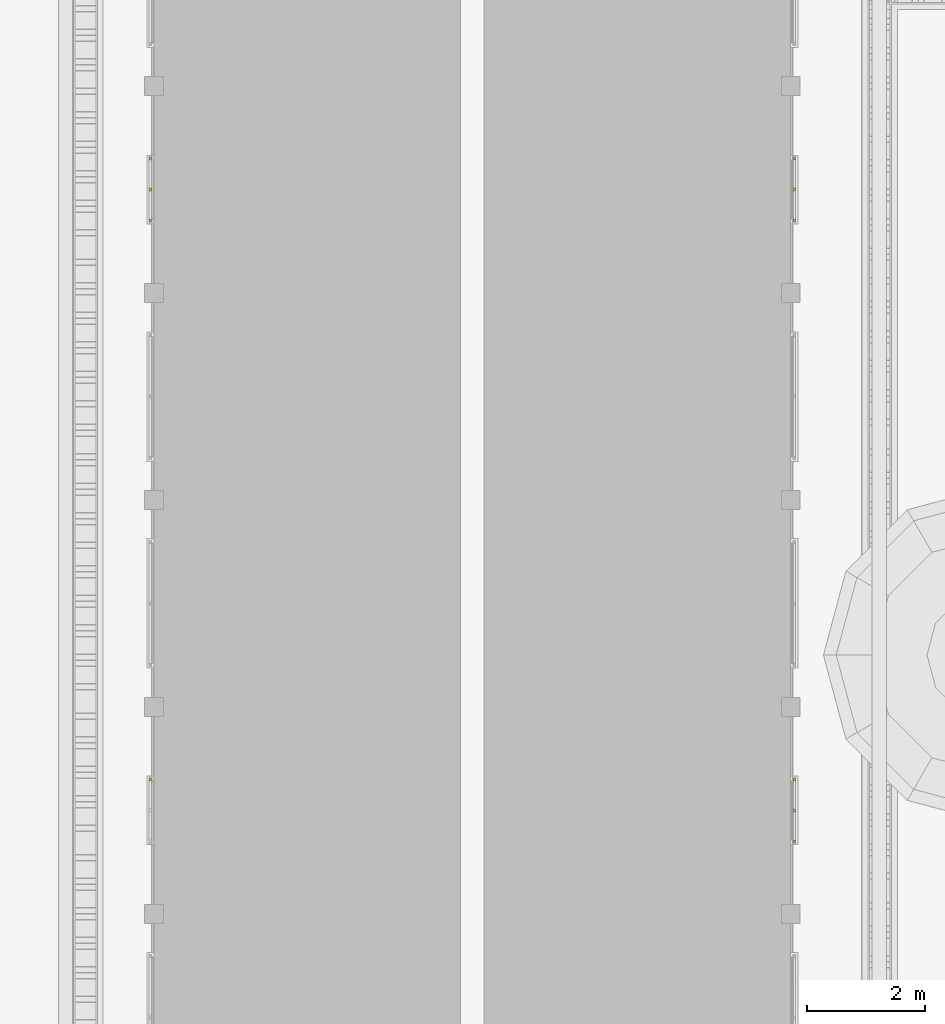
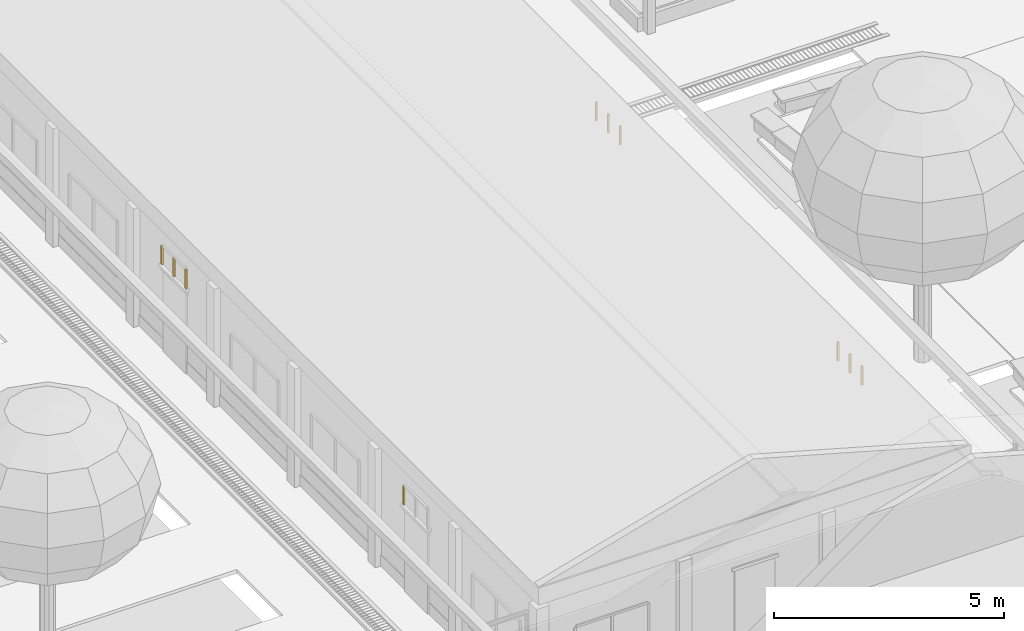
# One storey, part 72 of 166: 10 windows.
"""IFC2X3 building model written with IfcOpenShell, lengths in metres."""

from ifc_helpers import new_model, si_unit, origin, origin_with_axes, place, context, subcontext, project, spatial, faceted_brep, element, save


model = new_model("IFC2X3")

# Units and contexts
model_context = context("Model", 3, precision=1e-05, world=origin_with_axes())
body_context = subcontext(model_context, "Body", "Model", "MODEL_VIEW")
ifc_project = project(units=[si_unit("LENGTHUNIT", "METRE"), si_unit("AREAUNIT", "SQUARE_METRE"), si_unit("VOLUMEUNIT", "CUBIC_METRE"), si_unit("PLANEANGLEUNIT", "RADIAN")], contexts=[model_context])

# Site, building, storey
site_placement = place(None, origin_with_axes())
site = spatial("IfcSite", under=ifc_project, at=site_placement, Name="Predio Los Mangos - Morales, San Martín", CompositionType="ELEMENT")
building_placement = place(site_placement, origin())
building = spatial("IfcBuilding", under=site, at=building_placement, Name="Hogar de Refugio Temporal", CompositionType="ELEMENT")
storey_placement = place(building_placement, origin())
storey = spatial("IfcBuildingStorey", under=building, at=storey_placement, Name="NIVEL 1 (NPT +0.00)", CompositionType="ELEMENT", Elevation=0.0)

# Windows
window_1_placement = place(storey_placement, origin())
element("IfcWindow", 1, at=window_1_placement, inside=storey, Name="E-04_vt1_m", ObjectType="Ventana", context=body_context, shape_type="Brep", body=[
    faceted_brep([(13.72, 57.865, 2.45), (13.72, 57.915, 2.45), (13.76, 57.915, 2.45), (13.76, 57.865, 2.45), (13.72, 57.865, 2.95), (13.76, 57.865, 2.95), (13.76, 57.915, 2.95), (13.72, 57.915, 2.95)], [[[0, 1, 2, 3]], [[4, 5, 6, 7]], [[0, 3, 5, 4]], [[3, 2, 6, 5]], [[2, 1, 7, 6]], [[1, 0, 4, 7]]]),
])
window_2_placement = place(storey_placement, origin())
element("IfcWindow", 2, at=window_2_placement, inside=storey, Name="E-04_vt4_m", ObjectType="Ventana", context=body_context, shape_type="Brep", body=[
    faceted_brep([(13.72, 67.345, 2.45), (13.72, 67.395, 2.45), (13.76, 67.395, 2.45), (13.76, 67.345, 2.45), (13.72, 67.345, 2.95), (13.76, 67.345, 2.95), (13.76, 67.395, 2.95), (13.72, 67.395, 2.95)], [[[0, 1, 2, 3]], [[4, 5, 6, 7]], [[0, 3, 5, 4]], [[3, 2, 6, 5]], [[2, 1, 7, 6]], [[1, 0, 4, 7]]]),
])
window_3_placement = place(storey_placement, origin())
element("IfcWindow", 3, at=window_3_placement, inside=storey, Name="E-04_vt4_m", ObjectType="Ventana", context=body_context, shape_type="Brep", body=[
    faceted_brep([(13.72, 68.395, 2.45), (13.72, 68.445, 2.45), (13.76, 68.445, 2.45), (13.76, 68.395, 2.45), (13.72, 68.395, 2.95), (13.76, 68.395, 2.95), (13.76, 68.445, 2.95), (13.72, 68.445, 2.95)], [[[0, 1, 2, 3]], [[4, 5, 6, 7]], [[0, 3, 5, 4]], [[3, 2, 6, 5]], [[2, 1, 7, 6]], [[1, 0, 4, 7]]]),
])
window_4_placement = place(storey_placement, origin())
element("IfcWindow", 4, at=window_4_placement, inside=storey, Name="E-04_vt4_m", ObjectType="Ventana", context=body_context, shape_type="Brep", body=[
    faceted_brep([(13.72, 67.87, 2.45), (13.72, 67.92, 2.45), (13.76, 67.92, 2.45), (13.76, 67.87, 2.45), (13.72, 67.87, 2.95), (13.76, 67.87, 2.95), (13.76, 67.92, 2.95), (13.72, 67.92, 2.95)], [[[0, 1, 2, 3]], [[4, 5, 6, 7]], [[0, 3, 5, 4]], [[3, 2, 6, 5]], [[2, 1, 7, 6]], [[1, 0, 4, 7]]]),
])
window_5_placement = place(storey_placement, origin())
element("IfcWindow", 5, at=window_5_placement, inside=storey, Name="E-04_vt1_m", ObjectType="Ventana", context=body_context, shape_type="Brep", body=[
    faceted_brep([(24.64, 56.815, 2.45), (24.64, 56.865, 2.45), (24.68, 56.865, 2.45), (24.68, 56.815, 2.45), (24.64, 56.815, 2.95), (24.68, 56.815, 2.95), (24.68, 56.865, 2.95), (24.64, 56.865, 2.95)], [[[0, 1, 2, 3]], [[4, 5, 6, 7]], [[0, 3, 5, 4]], [[3, 2, 6, 5]], [[2, 1, 7, 6]], [[1, 0, 4, 7]]]),
])
window_6_placement = place(storey_placement, origin())
element("IfcWindow", 6, at=window_6_placement, inside=storey, Name="E-04_vt1_m", ObjectType="Ventana", context=body_context, shape_type="Brep", body=[
    faceted_brep([(24.64, 57.865, 2.45), (24.64, 57.915, 2.45), (24.68, 57.915, 2.45), (24.68, 57.865, 2.45), (24.64, 57.865, 2.95), (24.68, 57.865, 2.95), (24.68, 57.915, 2.95), (24.64, 57.915, 2.95)], [[[0, 1, 2, 3]], [[4, 5, 6, 7]], [[0, 3, 5, 4]], [[3, 2, 6, 5]], [[2, 1, 7, 6]], [[1, 0, 4, 7]]]),
])
window_7_placement = place(storey_placement, origin())
element("IfcWindow", 7, at=window_7_placement, inside=storey, Name="E-04_vt1_m", ObjectType="Ventana", context=body_context, shape_type="Brep", body=[
    faceted_brep([(24.64, 57.34, 2.45), (24.64, 57.39, 2.45), (24.68, 57.39, 2.45), (24.68, 57.34, 2.45), (24.64, 57.34, 2.95), (24.68, 57.34, 2.95), (24.68, 57.39, 2.95), (24.64, 57.39, 2.95)], [[[0, 1, 2, 3]], [[4, 5, 6, 7]], [[0, 3, 5, 4]], [[3, 2, 6, 5]], [[2, 1, 7, 6]], [[1, 0, 4, 7]]]),
])
window_8_placement = place(storey_placement, origin())
element("IfcWindow", 8, at=window_8_placement, inside=storey, Name="E-04_vt4_m", ObjectType="Ventana", context=body_context, shape_type="Brep", body=[
    faceted_brep([(24.64, 67.345, 2.45), (24.64, 67.395, 2.45), (24.68, 67.395, 2.45), (24.68, 67.345, 2.45), (24.64, 67.345, 2.95), (24.68, 67.345, 2.95), (24.68, 67.395, 2.95), (24.64, 67.395, 2.95)], [[[0, 1, 2, 3]], [[4, 5, 6, 7]], [[0, 3, 5, 4]], [[3, 2, 6, 5]], [[2, 1, 7, 6]], [[1, 0, 4, 7]]]),
])
window_9_placement = place(storey_placement, origin())
element("IfcWindow", 9, at=window_9_placement, inside=storey, Name="E-04_vt4_m", ObjectType="Ventana", context=body_context, shape_type="Brep", body=[
    faceted_brep([(24.64, 68.395, 2.45), (24.64, 68.445, 2.45), (24.68, 68.445, 2.45), (24.68, 68.395, 2.45), (24.64, 68.395, 2.95), (24.68, 68.395, 2.95), (24.68, 68.445, 2.95), (24.64, 68.445, 2.95)], [[[0, 1, 2, 3]], [[4, 5, 6, 7]], [[0, 3, 5, 4]], [[3, 2, 6, 5]], [[2, 1, 7, 6]], [[1, 0, 4, 7]]]),
])
window_10_placement = place(storey_placement, origin())
element("IfcWindow", 10, at=window_10_placement, inside=storey, Name="E-04_vt4_m", ObjectType="Ventana", context=body_context, shape_type="Brep", body=[
    faceted_brep([(24.64, 67.87, 2.45), (24.64, 67.92, 2.45), (24.68, 67.92, 2.45), (24.68, 67.87, 2.45), (24.64, 67.87, 2.95), (24.68, 67.87, 2.95), (24.68, 67.92, 2.95), (24.64, 67.92, 2.95)], [[[0, 1, 2, 3]], [[4, 5, 6, 7]], [[0, 3, 5, 4]], [[3, 2, 6, 5]], [[2, 1, 7, 6]], [[1, 0, 4, 7]]]),
])

save(model, "model.ifc")
